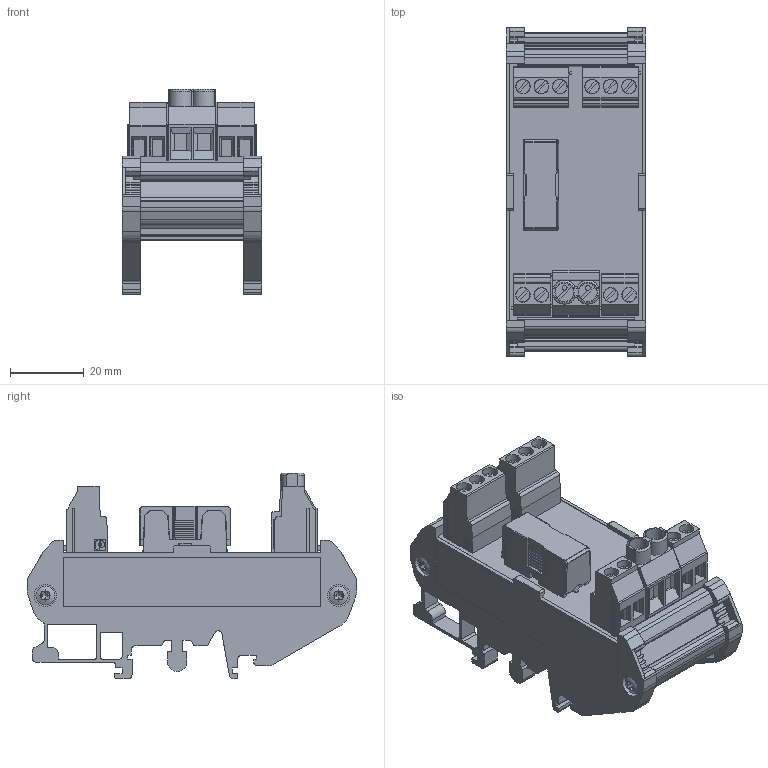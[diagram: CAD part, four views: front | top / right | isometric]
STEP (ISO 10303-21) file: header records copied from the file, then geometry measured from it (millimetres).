
FILE_DESCRIPTION(/* description */ (''),/* implementation_level */ '2;1');
FILE_NAME(/* name */ 'C:/Temp/STEP/FX-FBS_V100.step',/* time_stamp */ '2020-04-03T13:47:33+03:00',/* author */ (''),/* organization */ (''),/* preprocessor_version */ 'ST-DEVELOPER v18',/* originating_system */ 'Autodesk Translation Framework v8.12.0.6',/* authorisation */ '');
FILE_SCHEMA (('AUTOMOTIVE_DESIGN { 1 0 10303 214 3 1 1 }'));
Products named in the file (1): FX-FBS_V100
Bounding box: 38 x 89.6 x 55.8 mm (x, y, z)
Volume: 35543.4 mm3; surface area: 43293.6 mm2
Topology: 15 solids, 15 shells, 2252 faces, 6441 edges, 4311 vertices
Faces by surface type: plane 1489, cylinder 706, cone 21, torus 16, sphere 12, bspline 8
Full cylindrical faces by diameter (mm): 0.457 x5, 1.3 x24, 1.5 x2, 1.71 x36, 2.404 x4, 2.7 x1, 3 x2, 3.1 x4, 3.8 x10, 4 x10, 5 x2, 5.15 x4, 5.2 x2, 6 x4
Entity records: 93892 total; most frequent: CARTESIAN_POINT 31331, ORIENTED_EDGE 12866, DIRECTION 12386, EDGE_CURVE 6433, LINE 4482, VECTOR 4482, VERTEX_POINT 4311, AXIS2_PLACEMENT_3D 3952
